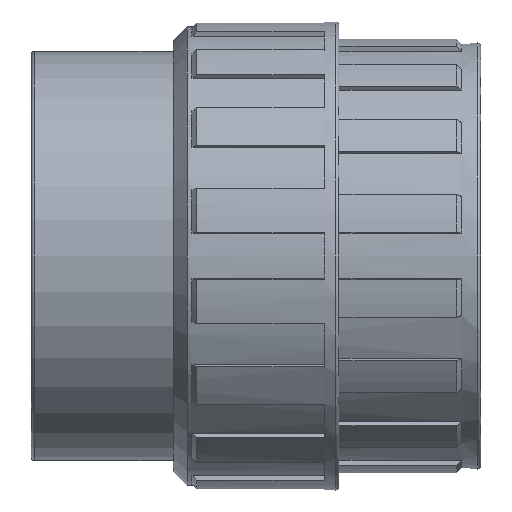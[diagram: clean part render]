
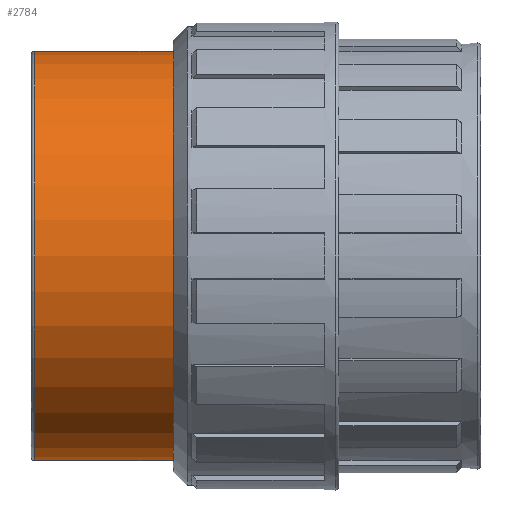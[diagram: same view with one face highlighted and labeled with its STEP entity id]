
A CAD part, front view. The second image highlights one B-rep face of the part: STEP entity #2784.
In plain terms, the highlighted cylindrical face has radius 66 mm (diameter 132 mm), a full revolution.
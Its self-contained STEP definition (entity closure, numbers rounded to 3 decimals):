
#65=FACE_BOUND('',#544,.T.);
#94=CYLINDRICAL_SURFACE('',#3074,66.);
#236=CIRCLE('',#3073,66.);
#237=CIRCLE('',#3075,66.);
#382=FACE_OUTER_BOUND('',#543,.T.);
#543=EDGE_LOOP('',(#2467));
#544=EDGE_LOOP('',(#2468));
#1342=VERTEX_POINT('',#4740);
#1343=VERTEX_POINT('',#4743);
#1743=EDGE_CURVE('',#1342,#1342,#236,.T.);
#1744=EDGE_CURVE('',#1343,#1343,#237,.T.);
#2467=ORIENTED_EDGE('',*,*,#1744,.T.);
#2468=ORIENTED_EDGE('',*,*,#1743,.F.);
#2784=ADVANCED_FACE('',(#382,#65),#94,.T.);
#3073=AXIS2_PLACEMENT_3D('',#4741,#3900,#3901);
#3074=AXIS2_PLACEMENT_3D('',#4742,#3902,#3903);
#3075=AXIS2_PLACEMENT_3D('',#4744,#3904,#3905);
#3900=DIRECTION('center_axis',(-1.,0.,0.));
#3901=DIRECTION('ref_axis',(0.,1.,0.));
#3902=DIRECTION('center_axis',(-1.,0.,0.));
#3903=DIRECTION('ref_axis',(0.,-1.,0.));
#3904=DIRECTION('center_axis',(-1.,0.,0.));
#3905=DIRECTION('ref_axis',(0.,0.,1.));
#4740=CARTESIAN_POINT('',(-71.4,-66.,0.));
#4741=CARTESIAN_POINT('Origin',(-71.4,0.,0.));
#4742=CARTESIAN_POINT('Origin',(-49.625,0.,0.));
#4743=CARTESIAN_POINT('',(-26.75,-66.,0.));
#4744=CARTESIAN_POINT('Origin',(-26.75,0.,0.));
